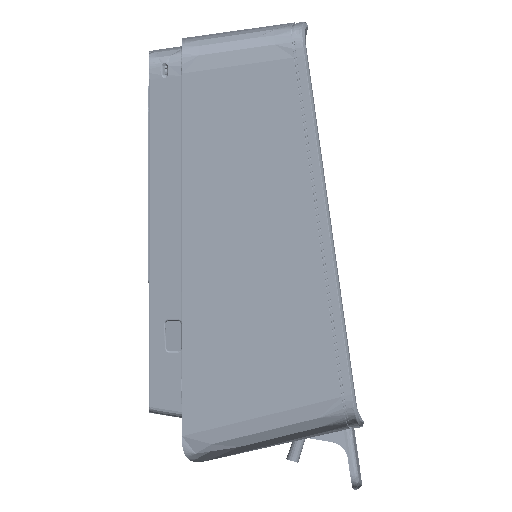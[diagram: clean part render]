
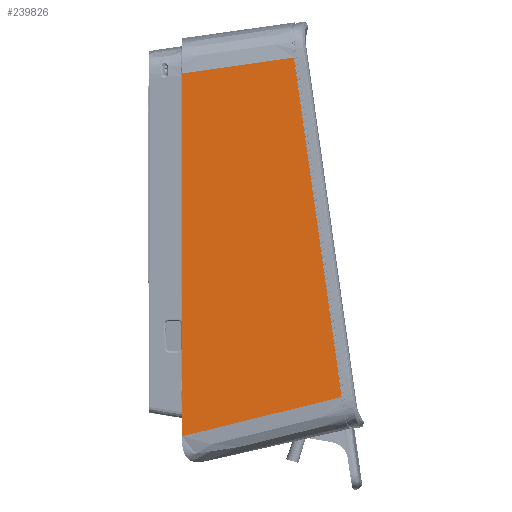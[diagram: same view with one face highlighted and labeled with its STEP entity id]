
A CAD part, front view. The second image highlights one B-rep face of the part: STEP entity #239826.
In plain terms, the highlighted planar face has unit normal (0.052, -0.999, 0.007).
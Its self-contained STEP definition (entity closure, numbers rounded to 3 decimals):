
#6287 = CARTESIAN_POINT ( 'NONE',  ( 48.759, -59.783, -74.913 ) ) ;
#50550 = VERTEX_POINT ( 'NONE', #225057 ) ;
#62796 = CARTESIAN_POINT ( 'NONE',  ( 85.737, -56.173, 156.316 ) ) ;
#73265 = EDGE_CURVE ( 'NONE', #525877, #258880, #235263, .T. ) ;
#104841 = PLANE ( 'NONE',  #482809 ) ;
#110076 = CARTESIAN_POINT ( 'NONE',  ( 62.217, -57.42, 152.949 ) ) ;
#110645 = DIRECTION ( 'NONE',  ( -0.999, -0.052, 0. ) ) ;
#149419 = LINE ( 'NONE', #506776, #439501 ) ;
#160710 = DIRECTION ( 'NONE',  ( 0.052, -0.999, 0.007 ) ) ;
#164260 = EDGE_CURVE ( 'NONE', #205604, #258880, #268969, .T. ) ;
#198086 = CARTESIAN_POINT ( 'NONE',  ( 115.907, -56.173, -58.358 ) ) ;
#205604 = VERTEX_POINT ( 'NONE', #497340 ) ;
#225057 = CARTESIAN_POINT ( 'NONE',  ( 115.907, -56.173, -58.358 ) ) ;
#235263 = B_SPLINE_CURVE_WITH_KNOTS ( 'NONE', 3,
 ( #62796, #110076, #370215, #284512 ),
 .UNSPECIFIED., .F., .F.,
 ( 4, 4 ),
 ( 0.01, 0.551 ),
 .UNSPECIFIED. ) ;
#236649 = CARTESIAN_POINT ( 'NONE',  ( 82.395, -57.975, -66.623 ) ) ;
#239826 = ADVANCED_FACE ( 'NONE', ( #429471 ), #104841, .T. ) ;
#251267 = ORIENTED_EDGE ( 'NONE', *, *, #164260, .F. ) ;
#258880 = VERTEX_POINT ( 'NONE', #270505 ) ;
#266050 = CARTESIAN_POINT ( 'NONE',  ( 15., -59.844, 156.983 ) ) ;
#268969 = LINE ( 'NONE', #266050, #441910 ) ;
#270505 = CARTESIAN_POINT ( 'NONE',  ( 15., -59.923, 146.181 ) ) ;
#280155 = EDGE_LOOP ( 'NONE', ( #445643, #356431, #303488, #251267 ) ) ;
#284512 = CARTESIAN_POINT ( 'NONE',  ( 15., -59.923, 146.181 ) ) ;
#303488 = ORIENTED_EDGE ( 'NONE', *, *, #73265, .T. ) ;
#313276 = DIRECTION ( 'NONE',  ( 0., 0.007, 1. ) ) ;
#347954 = CARTESIAN_POINT ( 'NONE',  ( 85.737, -56.173, 156.316 ) ) ;
#356431 = ORIENTED_EDGE ( 'NONE', *, *, #419246, .T. ) ;
#370215 = CARTESIAN_POINT ( 'NONE',  ( 38.638, -58.67, 149.571 ) ) ;
#419246 = EDGE_CURVE ( 'NONE', #50550, #525877, #149419, .T. ) ;
#429471 = FACE_OUTER_BOUND ( 'NONE', #280155, .T. ) ;
#439501 = VECTOR ( 'NONE', #459622, 1000. ) ;
#441910 = VECTOR ( 'NONE', #313276, 1000. ) ;
#445643 = ORIENTED_EDGE ( 'NONE', *, *, #485333, .T. ) ;
#459622 = DIRECTION ( 'NONE',  ( -0.139, 0., 0.99 ) ) ;
#482809 = AXIS2_PLACEMENT_3D ( 'NONE', #520950, #160710, #110645 ) ;
#485333 = EDGE_CURVE ( 'NONE', #205604, #50550, #575357, .T. ) ;
#497340 = CARTESIAN_POINT ( 'NONE',  ( 15., -61.598, -83.227 ) ) ;
#506776 = CARTESIAN_POINT ( 'NONE',  ( 115.905, -56.173, -58.341 ) ) ;
#511078 = CARTESIAN_POINT ( 'NONE',  ( 15., -61.598, -83.227 ) ) ;
#520950 = CARTESIAN_POINT ( 'NONE',  ( 87.046, -56.1, 156.956 ) ) ;
#525877 = VERTEX_POINT ( 'NONE', #347954 ) ;
#575357 = B_SPLINE_CURVE_WITH_KNOTS ( 'NONE', 3,
 ( #511078, #6287, #236649, #198086 ),
 .UNSPECIFIED., .F., .F.,
 ( 4, 4 ),
 ( 0.13, 0.988 ),
 .UNSPECIFIED. ) ;
